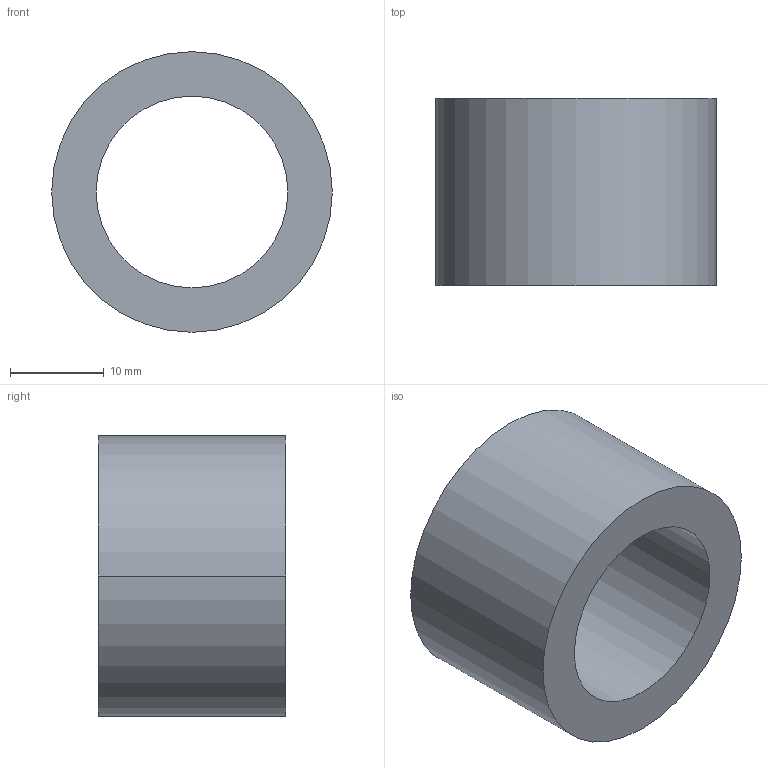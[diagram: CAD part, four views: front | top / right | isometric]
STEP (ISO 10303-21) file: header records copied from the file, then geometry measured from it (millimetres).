
FILE_DESCRIPTION (( 'STEP AP203' ), '1' );
FILE_NAME ('30800.WPP30H20.5.step', '2019-01-23T22:47:15', ( '' ), ( '' ), 'SwSTEP 2.0', 'SolidWorks 2017', '' );
FILE_SCHEMA (( 'CONFIG_CONTROL_DESIGN' ));
Length unit declared in the file: millimetre
Products named in the file (1): 30800.WPP30H20.5
Bounding box: 30 x 20 x 30 mm (x, y, z)
Volume: 7403.4 mm3; surface area: 3847.7 mm2
Topology: 1 solids, 1 shells, 8 faces, 16 edges, 10 vertices
Faces by surface type: cylinder 4, torus 2, plane 2
Entity records: 297 total; most frequent: DIRECTION 46, CARTESIAN_POINT 35, ORIENTED_EDGE 32, AXIS2_PLACEMENT_3D 21, EDGE_CURVE 16, CIRCLE 12, VERTEX_POINT 10, EDGE_LOOP 10
